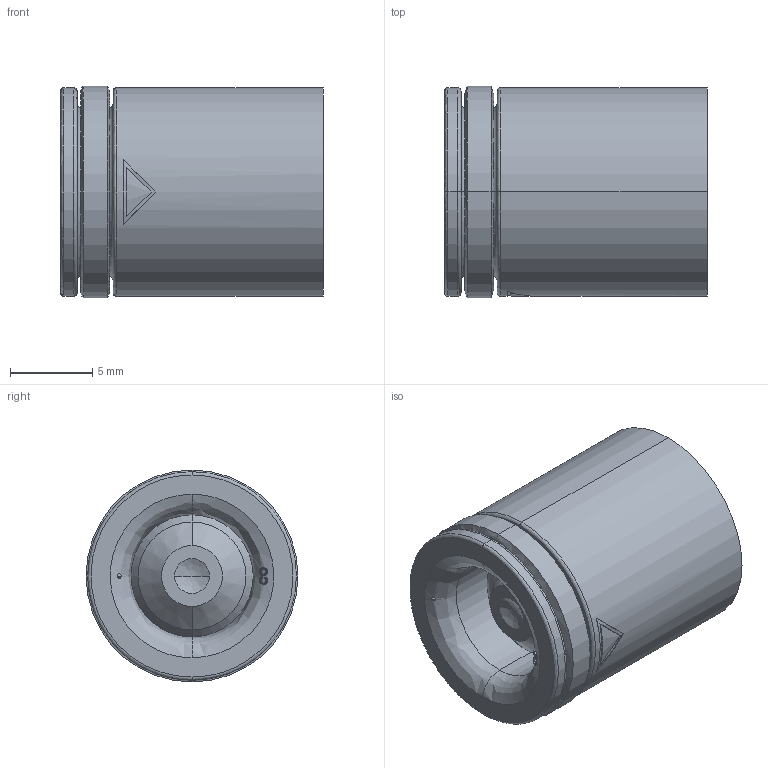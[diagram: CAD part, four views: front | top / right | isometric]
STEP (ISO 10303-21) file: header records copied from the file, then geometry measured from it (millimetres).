
FILE_DESCRIPTION (( 'STEP AP203' ), '1' );
FILE_NAME ('C0013-W149013630.STEP', '2020-04-08T14:54:35', ( '' ), ( '' ), 'SwSTEP 2.0', 'SolidWorks 2017', '' );
FILE_SCHEMA (( 'CONFIG_CONTROL_DESIGN' ));
Length unit declared in the file: metre
Products named in the file (6): PRT_FRVIR_0000008097; C0013-W149013630; PRT_FRVIR_0000008101; Pièce4^ASM_FRVIR_0000002710; FUR_FRVIR_0000001143_9.25x1.78Spl(CO013); PRT_FRVIR_0000008104_D10Spl(monté)
Assembly tree (5 placements, depth 2):
  C0013-W149013630
    PRT_FRVIR_0000008101
    FUR_FRVIR_0000001143_9.25x1.78Spl(CO013)
    PRT_FRVIR_0000008104_D10Spl(monté)
    PRT_FRVIR_0000008097
    Pièce4^ASM_FRVIR_0000002710
Bounding box: 16 x 12.9 x 12.9 mm (x, y, z)
Volume: 1043.4 mm3; surface area: 2784 mm2
Topology: 5 solids, 5 shells, 567 faces, 1382 edges, 832 vertices
Faces by surface type: bspline 239, plane 173, cylinder 106, cone 45, torus 4
Entity records: 25740 total; most frequent: CARTESIAN_POINT 13598, ORIENTED_EDGE 2728, DIRECTION 1915, EDGE_CURVE 1364, VERTEX_POINT 832, AXIS2_PLACEMENT_3D 694, EDGE_LOOP 612, ADVANCED_FACE 567
